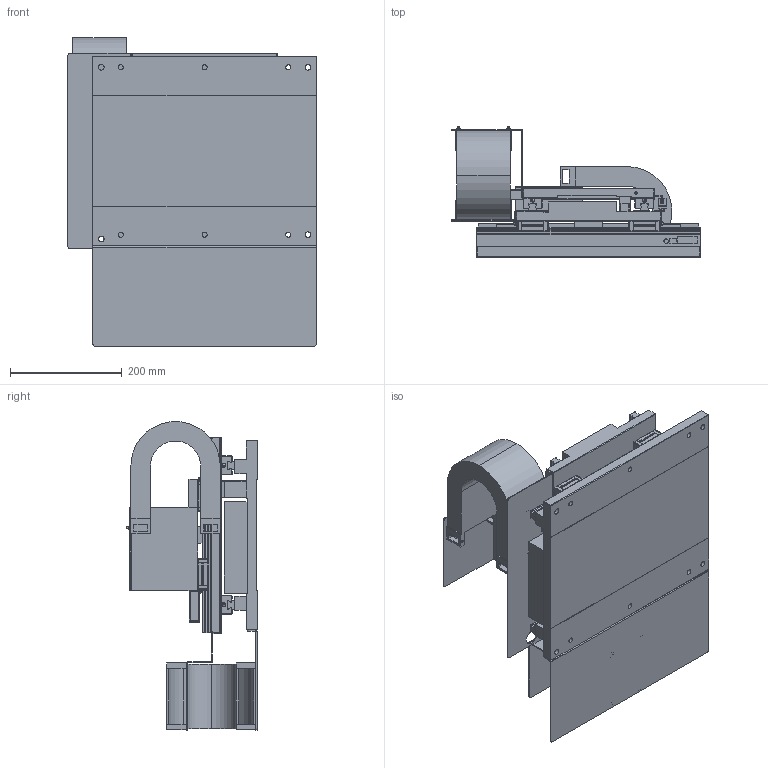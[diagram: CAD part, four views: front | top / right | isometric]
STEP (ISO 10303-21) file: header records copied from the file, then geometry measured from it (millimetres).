
FILE_DESCRIPTION (( 'STEP AP214' ), '1' );
FILE_NAME ('NST-D10B310A3BPNB_#2.00_0.STEP', '2021-03-19T05:54:23', ( '' ), ( '' ), 'SwSTEP 2.0', 'SolidWorks 2018', '' );
FILE_SCHEMA (( 'AUTOMOTIVE_DESIGN' ));
Length unit declared in the file: millimetre
Products named in the file (6): 17YK1220_Org; NST-D10B310A3BPNB_#2.00_0; AUA01610; AUA01620; AUA01600; 17YK1420_Org
Assembly tree (5 placements, depth 2):
  NST-D10B310A3BPNB_#2.00_0
    AUA01600
    AUA01610
    AUA01620
    17YK1420_Org
    17YK1220_Org
Bounding box: 445 x 233 x 553.28 mm (x, y, z)
Volume: 10675473.7 mm3; surface area: 1857890.7 mm2
Topology: 49 solids, 49 shells, 2013 faces, 5230 edges, 3339 vertices
Faces by surface type: plane 1506, cylinder 469, cone 18, sphere 16, bspline 4
Entity records: 81606 total; most frequent: CARTESIAN_POINT 10816, ORIENTED_EDGE 10360, DIRECTION 10149, EDGE_CURVE 5180, VECTOR 4153, LINE 4153, VERTEX_POINT 3323, AXIS2_PLACEMENT_3D 2998
